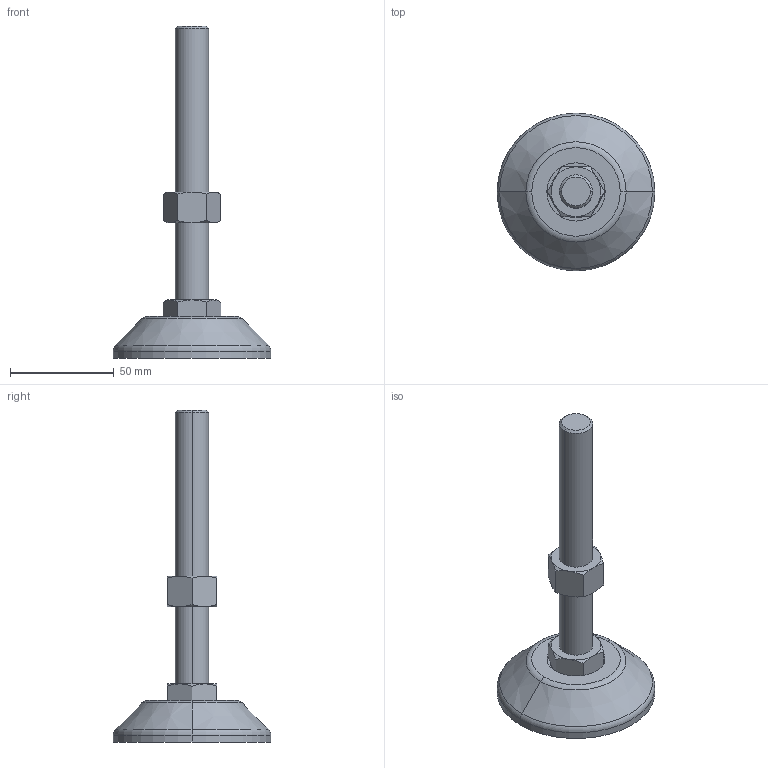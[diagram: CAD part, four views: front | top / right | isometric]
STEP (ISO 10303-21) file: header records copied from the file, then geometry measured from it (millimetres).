
FILE_DESCRIPTION (( 'STEP AP203' ), '1' );
FILE_NAME ('0108SD80M16X160.STEP', '2024-09-06T10:44:39', ( 'Windows-Benutzer' ), ( '' ), 'SwSTEP 2.0', 'SolidWorks 2024', '' );
FILE_SCHEMA (( 'CONFIG_CONTROL_DESIGN' ));
Length unit declared in the file: millimetre
Products named in the file (4): 0108SD80M16X160; Hexagon Nut ISO 4032 - M16 - D - N-ST8_8-ZN_Hexagon Nut ISO 4032 - M16 - D - N-ST8_8-ZN; Stellfuß Bodenplatte D80 zu M16 Schwenkbolzen; Stellfuß Schwenkbolzen M16x160 für FP D80
Assembly tree (3 placements, depth 2):
  0108SD80M16X160
    Stellfuß Schwenkbolzen M16x160 für FP D80
    Stellfuß Bodenplatte D80 zu M16 Schwenkbolzen
    Hexagon Nut ISO 4032 - M16 - D - N-ST8_8-ZN_Hexagon Nut ISO 4032 - M16 - D - N-ST8_8-ZN
Bounding box: 76 x 76 x 160 mm (x, y, z)
Volume: 103996.8 mm3; surface area: 22796.6 mm2
Topology: 3 solids, 3 shells, 77 faces, 178 edges, 108 vertices
Faces by surface type: cone 29, plane 26, cylinder 16, torus 4, sphere 2
Entity records: 2629 total; most frequent: CARTESIAN_POINT 553, DIRECTION 371, ORIENTED_EDGE 346, EDGE_CURVE 173, AXIS2_PLACEMENT_3D 163, VERTEX_POINT 105, EDGE_LOOP 82, CIRCLE 80
